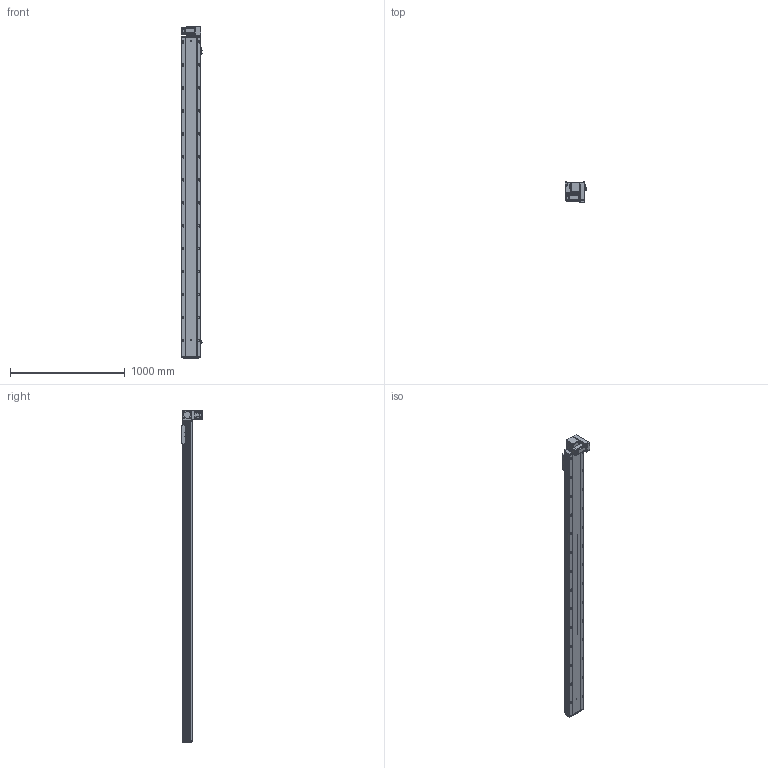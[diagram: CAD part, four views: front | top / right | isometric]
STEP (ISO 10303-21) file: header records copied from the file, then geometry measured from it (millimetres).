
FILE_DESCRIPTION (( 'STEP AP203' ), '1' );
FILE_NAME ('RY170-T-300-DR-P400W.SLDASM_2500.step', '2021-03-01T08:25:43', ( '盈信电脑' ), ( '东莞市道滘镇水果街19号' ), 'SwSTEP 2.0', 'SolidWorks 2012', '' );
FILE_SCHEMA (( 'CONFIG_CONTROL_DESIGN' ));
Products named in the file (19): RY170-T-300-DR-P400W.SLDASM_2500; 15; RY170-T-呴雄粣揤踡啣; 滅袉蝶18-10; RY170-T蹟翐M4; RY120-T主同步轮轴承压盖; RY170-T肮祭謫裔啣; RY170-T肮祭湍揤踡輸2; RY170-T肮祭湍揤踡輸1; RY170同步轮电机安装板(400W); RY170翋肮祭謫釱; RY170肮祭謫萇儂欶; RY170綴裔啣; 覜茼ん672; RY170外置感应片(200共用）; RY170肮祭謫ヶ裔啣; RY170-T-300肮祭謫倰第裔啣-DR_2500; RY170肮祭湍臏賑輸; RY170-T-300肮祭謫倰第菁釱-DR_2500
Assembly tree (23 placements, depth 2):
  RY170-T-300-DR-P400W.SLDASM_2500
    RY170-T-300肮祭謫倰第菁釱-DR_2500
    RY170肮祭湍臏賑輸
    RY170-T-300肮祭謫倰第裔啣-DR_2500
    RY170綴裔啣
    覜茼ん672  x3
    RY170外置感应片(200共用）
    RY170肮祭謫ヶ裔啣
    RY170翋肮祭謫釱
    RY170同步轮电机安装板(400W)
    RY170肮祭謫萇儂欶
    RY170-T肮祭湍揤踡輸1  x2
    RY170-T肮祭湍揤踡輸2  x2
    RY120-T主同步轮轴承压盖
    RY170-T肮祭謫裔啣
    RY170-T蹟翐M4
    滅袉蝶18-10  x2
    RY170-T-呴雄粣揤踡啣
    15
Bounding box: 183.7 x 178 x 2888 mm (x, y, z)
Volume: 13170828.3 mm3; surface area: 4558988.6 mm2
Topology: 23 solids, 23 shells, 3150 faces, 8874 edges, 5641 vertices
Faces by surface type: cylinder 1502, plane 1278, cone 340, bspline 30
Entity records: 96949 total; most frequent: CARTESIAN_POINT 22860, ORIENTED_EDGE 15248, DIRECTION 14790, EDGE_CURVE 7624, AXIS2_PLACEMENT_3D 5281, VERTEX_POINT 4997, VECTOR 4228, LINE 4228
